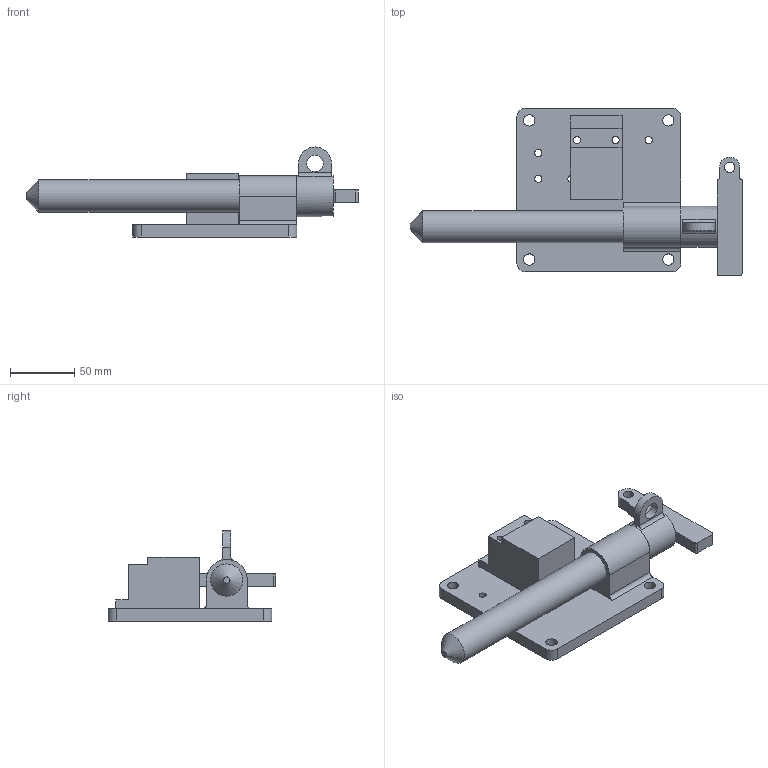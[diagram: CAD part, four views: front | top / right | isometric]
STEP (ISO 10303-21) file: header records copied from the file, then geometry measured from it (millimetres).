
FILE_DESCRIPTION(/* description */ (''),/* implementation_level */ '2;1');
FILE_NAME(/* name */ 'C:\Users\rcarver\Desktop\Tru-LOK pin\Ford-FCA\With Switch\SP25Y200TY00201.stp',/* time_stamp */ '2016-06-21T11:15:06-04:00',/* author */ ('rcarver'),/* organization */ (''),/* preprocessor_version */ 'ST-DEVELOPER v16.5',/* originating_system */ 'Autodesk Inventor 2017',/* authorisation */ '');
FILE_SCHEMA (('AUTOMOTIVE_DESIGN { 1 0 10303 214 3 1 1 }'));
Length unit declared in the file: millimetre
Products named in the file (1): SP25Y200TY00201
Bounding box: 257.62 x 130.18 x 69.85 mm (x, y, z)
Volume: 403112.4 mm3; surface area: 79872.5 mm2
Topology: 3 solids, 3 shells, 69 faces, 192 edges, 131 vertices
Faces by surface type: plane 37, cylinder 31, cone 1
Full cylindrical faces by diameter (mm): 5.588 x2, 5.59 x6, 7.94 x1, 8.74 x4, 12.7 x1, 25 x1, 31.75 x1
Entity records: 2196 total; most frequent: DIRECTION 368, CARTESIAN_POINT 346, ORIENTED_EDGE 320, EDGE_CURVE 160, AXIS2_PLACEMENT_3D 138, EDGE_LOOP 116, VERTEX_POINT 116, LINE 92
